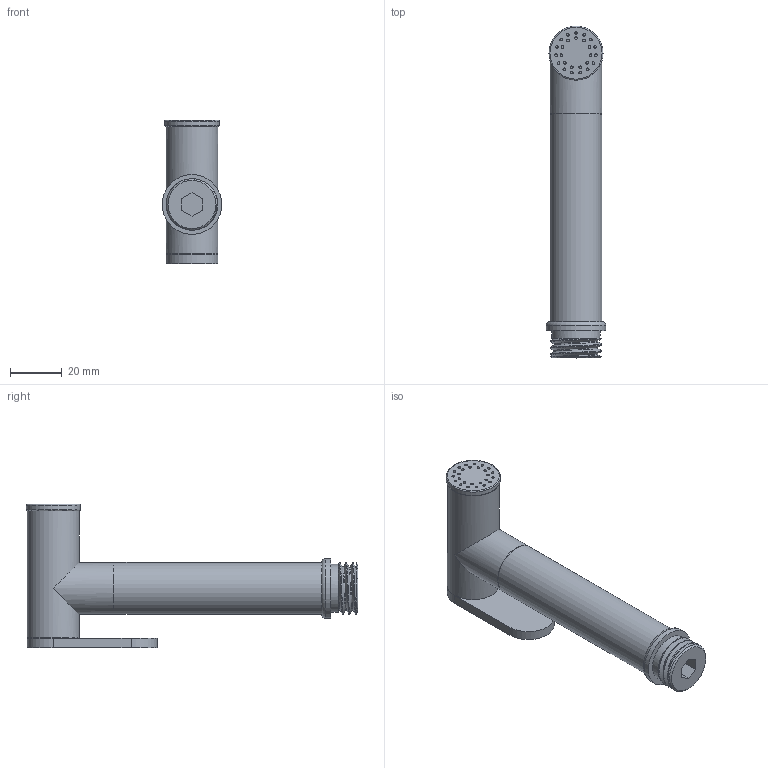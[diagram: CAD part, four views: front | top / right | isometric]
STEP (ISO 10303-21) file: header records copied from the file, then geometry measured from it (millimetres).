
FILE_DESCRIPTION(/* description */ (''),/* implementation_level */ '2;1');
FILE_NAME(/* name */ 'c:\worker\convert-fusion-jan-2019\tmp\job-1\42\output\files\4267a6d8-8c1c-448a-80f5-9fdda35d3a58\e639a663-152c-4d3c-8acd-174a46131c99.stp',/* time_stamp */ '2019-01-31T12:58:08+00:00',/* author */ (''),/* organization */ (''),/* preprocessor_version */ 'ST-DEVELOPER v17.2',/* originating_system */ 'Autodesk Translation Framework v7.6.0.251',/* authorisation */ '');
FILE_SCHEMA (('AUTOMOTIVE_DESIGN { 1 0 10303 214 3 1 1 }'));
Length unit declared in the file: millimetre
Products named in the file (1): !Bidetta2-R
Bounding box: 23 x 127.72 x 55.2 mm (x, y, z)
Volume: 51306.1 mm3; surface area: 16882.6 mm2
Topology: 5 solids, 5 shells, 131 faces, 274 edges, 181 vertices
Faces by surface type: cylinder 68, plane 56, torus 4, bspline 2, cone 1
Full cylindrical faces by diameter (mm): 1 x52, 16.938 x2, 18.5 x1, 19.791 x2, 20 x3, 20.85 x1, 23 x1
Entity records: 4784 total; most frequent: CARTESIAN_POINT 1731, DIRECTION 656, ORIENTED_EDGE 548, EDGE_CURVE 274, AXIS2_PLACEMENT_3D 273, EDGE_LOOP 213, VERTEX_POINT 181, CIRCLE 141
